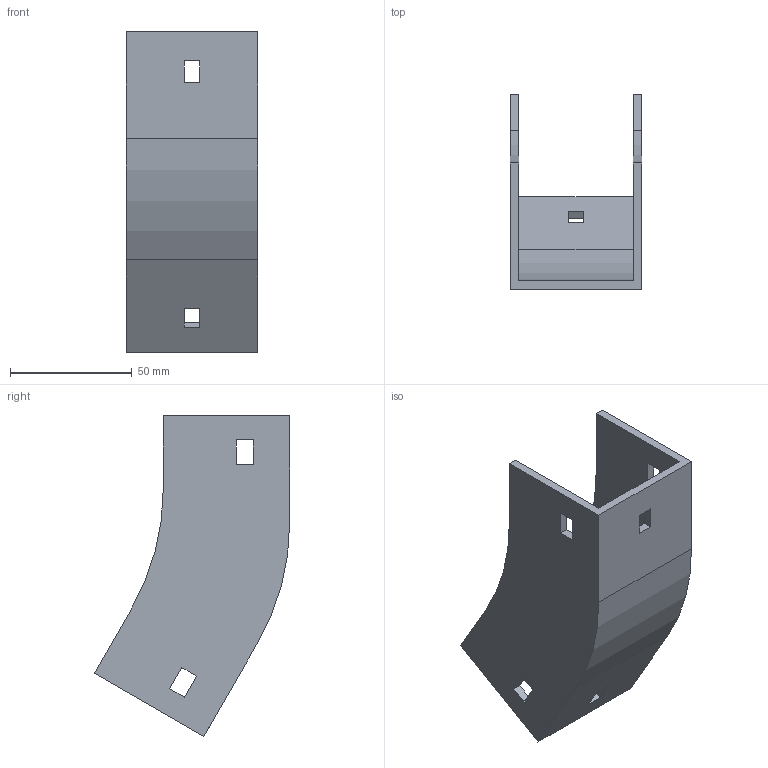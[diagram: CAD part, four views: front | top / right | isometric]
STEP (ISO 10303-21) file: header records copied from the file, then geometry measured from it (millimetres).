
FILE_DESCRIPTION (( 'STEP AP214' ), '1' );
FILE_NAME ('32F1B050.step', '2025-02-21T12:57:51', ( '' ), ( '' ), 'SwSTEP 2.0', 'SolidWorks 2023', '' );
FILE_SCHEMA (( 'AUTOMOTIVE_DESIGN' ));
Length unit declared in the file: millimetre
Products named in the file (1): 32F1B050
Bounding box: 54 x 80.4 x 131.98 mm (x, y, z)
Volume: 67945.5 mm3; surface area: 41368.9 mm2
Topology: 1 solids, 1 shells, 42 faces, 120 edges, 80 vertices
Faces by surface type: plane 38, cylinder 4
Entity records: 1399 total; most frequent: CARTESIAN_POINT 243, ORIENTED_EDGE 240, DIRECTION 214, EDGE_CURVE 120, LINE 112, VECTOR 112, VERTEX_POINT 80, EDGE_LOOP 54
